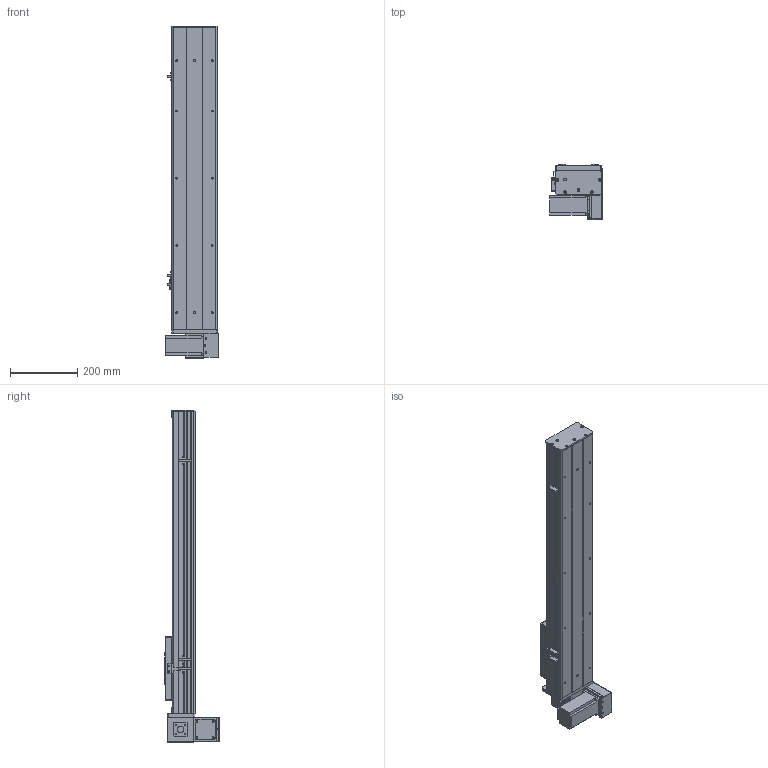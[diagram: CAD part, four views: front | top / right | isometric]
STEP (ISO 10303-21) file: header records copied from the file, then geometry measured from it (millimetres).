
FILE_DESCRIPTION (( 'STEP AP203' ), '1' );
FILE_NAME ('Y135CB-D90-S600-BM-P400W.STEP', '2020-02-18T09:21:42', ( '微软用户' ), ( '微软中国' ), 'SwSTEP 2.0', 'SolidWorks 2017', '' );
FILE_SCHEMA (( 'CONFIG_CONTROL_DESIGN' ));
Length unit declared in the file: millimetre
Products named in the file (18): C-詩湍揤踡え-陔; Y135CB-耜裔; Y135CB-D90-S600-BM-P400W; 135CB--詩湍-CE; 135CB---遴掛极.-; Y100-135俋离換覜ん--; 35CB---喘謫眊楊擘啣; Y135C-陔俋离換覜結え-; 0B-埴倛裔啣; 5C--俋欶; 0B-源倛裔啣; C-雄赽釱--; 0B-萇儂楊擘啣; Y10B--々湍喘謫眊--666; san松下电机400不带刹车----; 00B-俋欶BM--; 5CB --掛极耜裔啣-; Y10B-耜蚾蟀諉啣----
Assembly tree (21 placements, depth 2):
  Y135CB-D90-S600-BM-P400W
    Y135CB-耜裔
    135CB---遴掛极.-
    35CB---喘謫眊楊擘啣
    0B-埴倛裔啣
    0B-源倛裔啣
    0B-萇儂楊擘啣
    san松下电机400不带刹车----
    5CB --掛极耜裔啣-  x2
    C-詩湍揤踡え-陔  x2
    135CB--詩湍-CE
    Y100-135俋离換覜ん--  x3
    Y135C-陔俋离換覜結え-
    5C--俋欶
    C-雄赽釱--
    Y10B--々湍喘謫眊--666
    00B-俋欶BM--
    Y10B-耜蚾蟀諉啣----
Bounding box: 157 x 163.3 x 988 mm (x, y, z)
Volume: 3347688.2 mm3; surface area: 1299211.1 mm2
Topology: 21 solids, 21 shells, 937 faces, 2491 edges, 1650 vertices
Faces by surface type: cylinder 465, plane 456, cone 16
Entity records: 28945 total; most frequent: DIRECTION 4807, CARTESIAN_POINT 4724, ORIENTED_EDGE 4458, EDGE_CURVE 2229, AXIS2_PLACEMENT_3D 1749, VERTEX_POINT 1478, VECTOR 1309, LINE 1309
